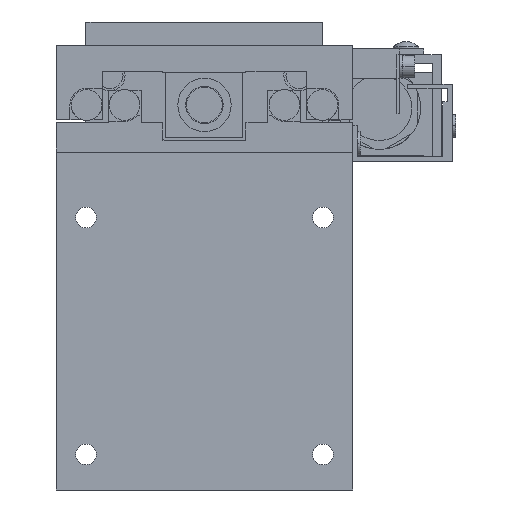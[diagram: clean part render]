
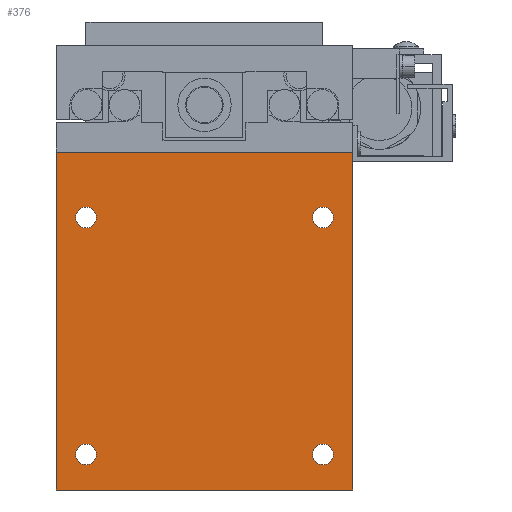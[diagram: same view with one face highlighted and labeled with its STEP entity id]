
A CAD part, front view. The second image highlights one B-rep face of the part: STEP entity #376.
In plain terms, the highlighted planar face has unit normal (0, -1, 0).
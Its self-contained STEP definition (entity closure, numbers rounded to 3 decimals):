
#376=ADVANCED_FACE('',(#1070,#1071,#1072,#1073,#1074),#1075,.F.);
#1070=FACE_BOUND('',#2544,.T.);
#1071=FACE_BOUND('',#2545,.T.);
#1072=FACE_BOUND('',#2546,.T.);
#1073=FACE_BOUND('',#2547,.T.);
#1074=FACE_OUTER_BOUND('',#2548,.T.);
#1075=PLANE('',#2549);
#2544=EDGE_LOOP('',(#4083,#4084));
#2545=EDGE_LOOP('',(#4085,#4086));
#2546=EDGE_LOOP('',(#4087,#4088));
#2547=EDGE_LOOP('',(#4089,#4090));
#2548=EDGE_LOOP('',(#4091,#4092,#4093,#4094));
#2549=AXIS2_PLACEMENT_3D('',#4095,#4096,#4097);
#4083=ORIENTED_EDGE('',*,*,#9556,.F.);
#4084=ORIENTED_EDGE('',*,*,#9507,.F.);
#4085=ORIENTED_EDGE('',*,*,#9557,.F.);
#4086=ORIENTED_EDGE('',*,*,#9539,.F.);
#4087=ORIENTED_EDGE('',*,*,#9558,.F.);
#4088=ORIENTED_EDGE('',*,*,#9547,.F.);
#4089=ORIENTED_EDGE('',*,*,#9559,.F.);
#4090=ORIENTED_EDGE('',*,*,#9543,.F.);
#4091=ORIENTED_EDGE('',*,*,#9560,.T.);
#4092=ORIENTED_EDGE('',*,*,#9561,.F.);
#4093=ORIENTED_EDGE('',*,*,#9562,.F.);
#4094=ORIENTED_EDGE('',*,*,#9553,.T.);
#4095=CARTESIAN_POINT('',(-25.0,0.0,-26.5));
#4096=DIRECTION('',(0.0,1.0,0.0));
#4097=DIRECTION('',(-1.0,0.0,0.0));
#9507=EDGE_CURVE('',#11245,#11241,#11247,.T.);
#9539=EDGE_CURVE('',#11309,#11305,#11311,.T.);
#9543=EDGE_CURVE('',#11317,#11313,#11319,.T.);
#9547=EDGE_CURVE('',#11325,#11321,#11327,.T.);
#9553=EDGE_CURVE('',#11339,#11337,#11340,.T.);
#9556=EDGE_CURVE('',#11241,#11245,#11344,.T.);
#9557=EDGE_CURVE('',#11305,#11309,#11345,.T.);
#9558=EDGE_CURVE('',#11321,#11325,#11346,.T.);
#9559=EDGE_CURVE('',#11313,#11317,#11347,.T.);
#9560=EDGE_CURVE('',#11337,#11348,#11349,.T.);
#9561=EDGE_CURVE('',#11350,#11348,#11351,.T.);
#9562=EDGE_CURVE('',#11339,#11350,#11352,.T.);
#11241=VERTEX_POINT('',#14091);
#11245=VERTEX_POINT('',#14096);
#11247=CIRCLE('',#14099,1.75);
#11305=VERTEX_POINT('',#14171);
#11309=VERTEX_POINT('',#14176);
#11311=CIRCLE('',#14179,1.75);
#11313=VERTEX_POINT('',#14181);
#11317=VERTEX_POINT('',#14186);
#11319=CIRCLE('',#14189,1.75);
#11321=VERTEX_POINT('',#14191);
#11325=VERTEX_POINT('',#14196);
#11327=CIRCLE('',#14199,1.75);
#11337=VERTEX_POINT('',#14211);
#11339=VERTEX_POINT('',#14214);
#11340=LINE('',#14215,#14216);
#11344=CIRCLE('',#14222,1.75);
#11345=CIRCLE('',#14223,1.75);
#11346=CIRCLE('',#14224,1.75);
#11347=CIRCLE('',#14225,1.75);
#11348=VERTEX_POINT('',#14226);
#11349=LINE('',#14227,#14228);
#11350=VERTEX_POINT('',#14229);
#11351=LINE('',#14230,#14231);
#11352=LINE('',#14232,#14233);
#14091=CARTESIAN_POINT('',(20.0,0.0,21.25));
#14096=CARTESIAN_POINT('',(20.0,0.0,17.75));
#14099=AXIS2_PLACEMENT_3D('',#18131,#18132,#18133);
#14171=CARTESIAN_POINT('',(-20.0,0.0,-18.75));
#14176=CARTESIAN_POINT('',(-20.0,0.0,-22.25));
#14179=AXIS2_PLACEMENT_3D('',#18195,#18196,#18197);
#14181=CARTESIAN_POINT('',(-20.0,0.0,21.25));
#14186=CARTESIAN_POINT('',(-20.0,0.0,17.75));
#14189=AXIS2_PLACEMENT_3D('',#18203,#18204,#18205);
#14191=CARTESIAN_POINT('',(20.0,0.0,-18.75));
#14196=CARTESIAN_POINT('',(20.0,0.0,-22.25));
#14199=AXIS2_PLACEMENT_3D('',#18211,#18212,#18213);
#14211=CARTESIAN_POINT('',(25.0,0.0,-26.5));
#14214=CARTESIAN_POINT('',(-25.0,0.0,-26.5));
#14215=CARTESIAN_POINT('',(-25.0,0.0,-26.5));
#14216=VECTOR('',#18223,1000.0);
#14222=AXIS2_PLACEMENT_3D('',#18226,#18227,#18228);
#14223=AXIS2_PLACEMENT_3D('',#18229,#18230,#18231);
#14224=AXIS2_PLACEMENT_3D('',#18232,#18233,#18234);
#14225=AXIS2_PLACEMENT_3D('',#18235,#18236,#18237);
#14226=CARTESIAN_POINT('',(25.0,0.0,30.5));
#14227=CARTESIAN_POINT('',(25.0,0.0,-26.5));
#14228=VECTOR('',#18238,1000.0);
#14229=CARTESIAN_POINT('',(-25.0,0.0,30.5));
#14230=CARTESIAN_POINT('',(-25.0,0.0,30.5));
#14231=VECTOR('',#18239,1000.0);
#14232=CARTESIAN_POINT('',(-25.0,0.0,-26.5));
#14233=VECTOR('',#18240,1000.0);
#18131=CARTESIAN_POINT('',(20.0,0.0,19.5));
#18132=DIRECTION('',(0.0,-1.0,0.0));
#18133=DIRECTION('',(0.0,0.0,1.0));
#18195=CARTESIAN_POINT('',(-20.0,0.0,-20.5));
#18196=DIRECTION('',(0.0,-1.0,0.0));
#18197=DIRECTION('',(0.0,0.0,1.0));
#18203=CARTESIAN_POINT('',(-20.0,0.0,19.5));
#18204=DIRECTION('',(0.0,-1.0,0.0));
#18205=DIRECTION('',(0.0,0.0,1.0));
#18211=CARTESIAN_POINT('',(20.0,0.0,-20.5));
#18212=DIRECTION('',(0.0,-1.0,0.0));
#18213=DIRECTION('',(0.0,0.0,1.0));
#18223=DIRECTION('',(1.0,0.0,0.0));
#18226=CARTESIAN_POINT('',(20.0,0.0,19.5));
#18227=DIRECTION('',(0.0,-1.0,0.0));
#18228=DIRECTION('',(0.0,0.0,1.0));
#18229=CARTESIAN_POINT('',(-20.0,0.0,-20.5));
#18230=DIRECTION('',(0.0,-1.0,0.0));
#18231=DIRECTION('',(0.0,0.0,1.0));
#18232=CARTESIAN_POINT('',(20.0,0.0,-20.5));
#18233=DIRECTION('',(0.0,-1.0,0.0));
#18234=DIRECTION('',(0.0,0.0,1.0));
#18235=CARTESIAN_POINT('',(-20.0,0.0,19.5));
#18236=DIRECTION('',(0.0,-1.0,0.0));
#18237=DIRECTION('',(0.0,0.0,1.0));
#18238=DIRECTION('',(0.0,0.0,1.0));
#18239=DIRECTION('',(1.0,0.0,0.0));
#18240=DIRECTION('',(0.0,0.0,1.0));
